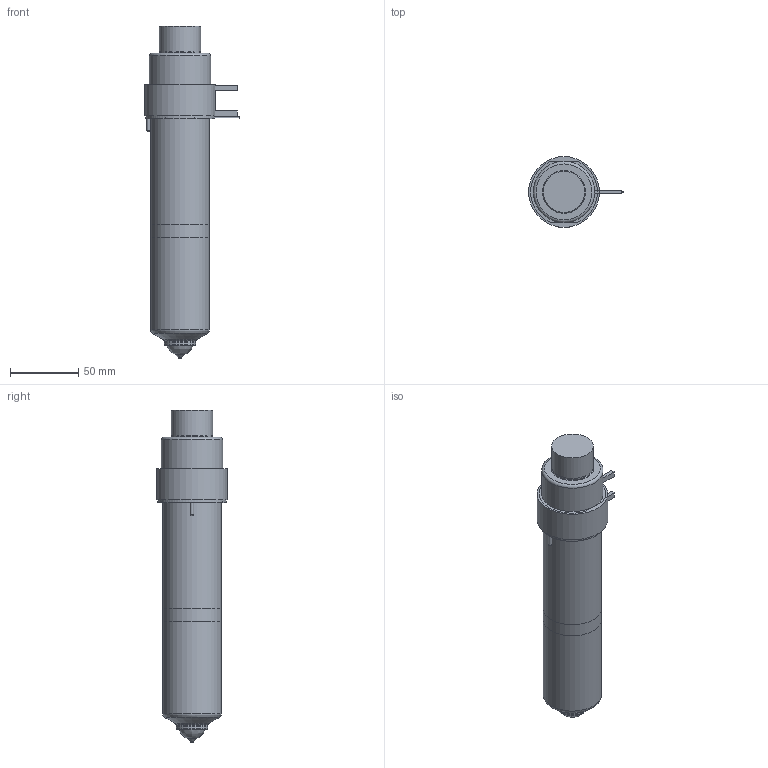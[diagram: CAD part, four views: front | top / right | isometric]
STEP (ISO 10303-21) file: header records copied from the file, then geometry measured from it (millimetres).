
FILE_DESCRIPTION(/* description */ (''),/* implementation_level */ '2;1');
FILE_NAME(/* name */ 'SXTT-SXIT27175_200C_b',/* time_stamp */ '2007-01-24T17:20:44+13:00',/* author */ (''),/* organization */ (''),/* preprocessor_version */ 'ST-DEVELOPER v9',/* originating_system */ 'UGS - NX 4.0',/* authorisation */ '');
FILE_SCHEMA (('CONFIG_CONTROL_DESIGN'));
Length unit declared in the file: millimetre
Products named in the file (1): SXTT-SXIT27175_200C_b
Bounding box: 69.6 x 52 x 243.66 mm (x, y, z)
Volume: 606657.5 mm3; surface area: 71964.7 mm2
Topology: 7 solids, 7 shells, 96 faces, 189 edges, 121 vertices
Faces by surface type: plane 43, cylinder 28, cone 12, torus 11, bspline 2
Full cylindrical faces by diameter (mm): 1 x3, 2 x1, 2.5 x2, 12 x1, 22.61 x1, 23.01 x2, 27.5 x1, 30 x1, 30.4 x1, 38.1 x2, 43 x2, 45 x1, 50 x1, 52 x1
Entity records: 2480 total; most frequent: CARTESIAN_POINT 582, DIRECTION 398, ORIENTED_EDGE 286, AXIS2_PLACEMENT_3D 174, EDGE_LOOP 148, EDGE_CURVE 143, VERTEX_POINT 114, ADVANCED_FACE 96
